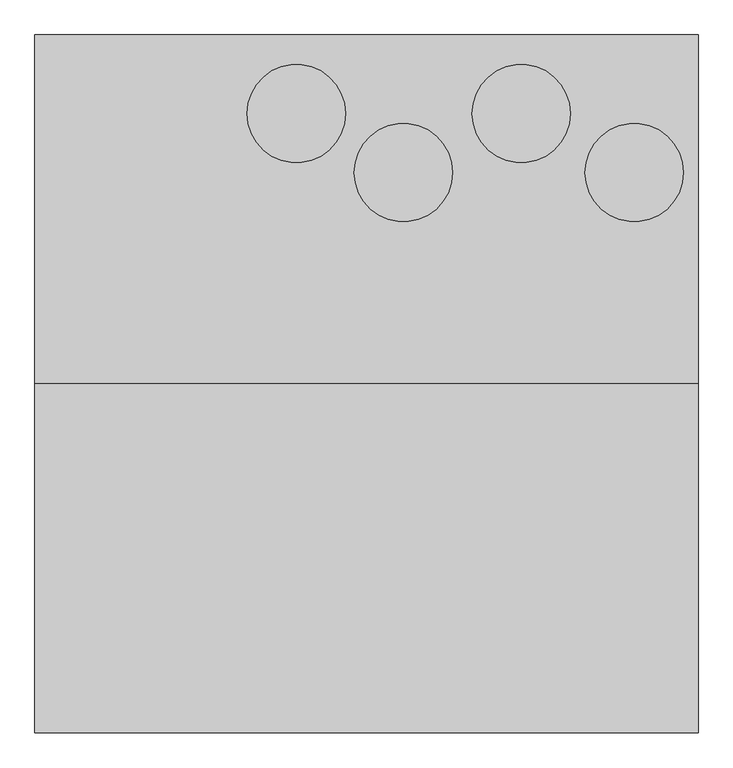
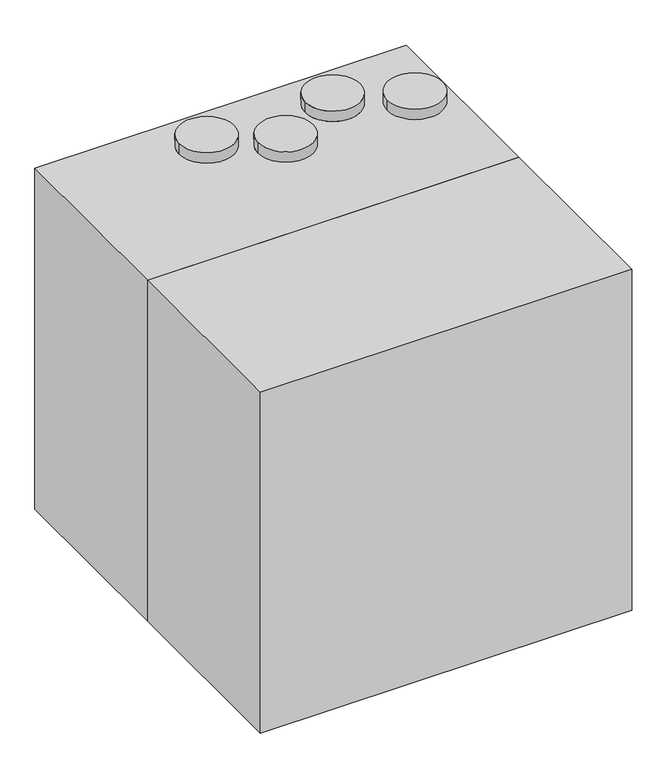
"""IFC4 building model written with IfcOpenShell, lengths in millimetres: proxy geometry, ADSK_КПВУ RIVIERA-EC VRE_круглая : Riviera-EC VRE 850."""

from ifc_helpers import new_model, si_unit, frame, origin, origin_with_axes, place, context, project, spatial, polyline, circle_curve, outline, extrude, source, transform, mapped, element, save
from ifc_brep_helpers import plane_surface, cylinder_surface, advanced_brep


def mechanical_equipment_e39d4b15(model_context):
    return source(origin(), model_context, "Body", "SolidModel", [
        extrude(outline(polyline([(941.0, -355.0), (941.0, -1065.0), (-409.0, -1065.0), (-409.0, -355.0), (941.0, -355.0)])), origin_with_axes(), (0.0, 0.0, 1.0), 1310.0),
        advanced_brep(
        [(941.0, -355.0, 0.0), (941.0, -355.0, 1310.0), (-409.0, -355.0, 1310.0), (-409.0, -355.0, 0.0), (-409.0, 355.0, 0.0), (-409.0, 355.0, 1310.0), (941.0, 355.0, 1310.0), (941.0, 355.0, 0.0), (23.0, 195.0, 1350.0), (223.0, 195.0, 1350.0), (241.0, 75.0, 1350.0), (441.0, 75.0, 1350.0), (481.0, 195.0, 1350.0), (681.0, 195.0, 1350.0), (711.0, 75.0, 1350.0), (911.0, 75.0, 1350.0), (23.0, 195.0, 1310.0), (223.0, 195.0, 1310.0), (241.0, 75.0, 1310.0), (441.0, 75.0, 1310.0), (481.0, 195.0, 1310.0), (681.0, 195.0, 1310.0), (711.0, 75.0, 1310.0), (911.0, 75.0, 1310.0)],
        [
            (0, 1),
            (1, 2),
            (2, 3),
            (3, 0),
            (4, 5),
            (5, 6),
            (6, 7),
            (7, 4),
            (7, 0),
            (3, 4),
            (8, 9, circle_curve(frame((123.0, 195.0, 1350.0), z_axis=(0.0, 0.0, 1.0), x_axis=(1.0, 0.0, 0.0)), 100.0)),
            (9, 8, circle_curve(frame((123.0, 195.0, 1350.0), z_axis=(0.0, 0.0, 1.0), x_axis=(1.0, 0.0, 0.0)), 100.0)),
            (10, 11, circle_curve(frame((341.0, 75.0, 1350.0), z_axis=(0.0, 0.0, 1.0), x_axis=(1.0, 0.0, 0.0)), 100.0)),
            (11, 10, circle_curve(frame((341.0, 75.0, 1350.0), z_axis=(0.0, 0.0, 1.0), x_axis=(1.0, 0.0, 0.0)), 100.0)),
            (12, 13, circle_curve(frame((581.0, 195.0, 1350.0), z_axis=(0.0, 0.0, 1.0), x_axis=(1.0, 0.0, 0.0)), 100.0)),
            (13, 12, circle_curve(frame((581.0, 195.0, 1350.0), z_axis=(0.0, 0.0, 1.0), x_axis=(1.0, 0.0, 0.0)), 100.0)),
            (14, 15, circle_curve(frame((811.0, 75.0, 1350.0), z_axis=(0.0, 0.0, 1.0), x_axis=(1.0, 0.0, 0.0)), 100.0)),
            (15, 14, circle_curve(frame((811.0, 75.0, 1350.0), z_axis=(0.0, 0.0, 1.0), x_axis=(1.0, 0.0, 0.0)), 100.0)),
            (8, 16),
            (16, 17, circle_curve(frame((123.0, 195.0, 1310.0), z_axis=(0.0, 0.0, 1.0), x_axis=(1.0, 0.0, 0.0)), 100.0)),
            (17, 9),
            (17, 16, circle_curve(frame((123.0, 195.0, 1310.0), z_axis=(0.0, 0.0, 1.0), x_axis=(1.0, 0.0, 0.0)), 100.0)),
            (10, 18),
            (18, 19, circle_curve(frame((341.0, 75.0, 1310.0), z_axis=(0.0, 0.0, 1.0), x_axis=(1.0, 0.0, 0.0)), 100.0)),
            (19, 11),
            (19, 18, circle_curve(frame((341.0, 75.0, 1310.0), z_axis=(0.0, 0.0, 1.0), x_axis=(1.0, 0.0, 0.0)), 100.0)),
            (12, 20),
            (20, 21, circle_curve(frame((581.0, 195.0, 1310.0), z_axis=(0.0, 0.0, 1.0), x_axis=(1.0, 0.0, 0.0)), 100.0)),
            (21, 13),
            (21, 20, circle_curve(frame((581.0, 195.0, 1310.0), z_axis=(0.0, 0.0, 1.0), x_axis=(1.0, 0.0, 0.0)), 100.0)),
            (14, 22),
            (22, 23, circle_curve(frame((811.0, 75.0, 1310.0), z_axis=(0.0, 0.0, 1.0), x_axis=(1.0, 0.0, 0.0)), 100.0)),
            (23, 15),
            (23, 22, circle_curve(frame((811.0, 75.0, 1310.0), z_axis=(0.0, 0.0, 1.0), x_axis=(1.0, 0.0, 0.0)), 100.0)),
            (6, 1),
            (2, 5),
        ],
        [
            plane_surface(frame((153.0, -355.0, 0.0), z_axis=(0.0, -1.0, 0.0), x_axis=(0.0, 0.0, 1.0))),
            plane_surface(frame((153.0, 355.0, 0.0), z_axis=(0.0, 1.0, 0.0), x_axis=(0.0, 0.0, -1.0))),
            plane_surface(frame((93.0, -355.0, 0.0), z_axis=(0.0, 0.0, -1.0), x_axis=(0.0, 1.0, 0.0))),
            plane_surface(frame((223.0, 195.0, 1350.0), z_axis=(0.0, 0.0, 1.0), x_axis=(0.0, 1.0, 0.0))),
            cylinder_surface(frame((123.0, 195.0, 1310.0), z_axis=(0.0, 0.0, 1.0), x_axis=(1.0, 0.0, 0.0)), 100.0),
            cylinder_surface(frame((341.0, 75.0, 0.0), z_axis=(0.0, 0.0, 1.0), x_axis=(1.0, 0.0, 0.0)), 100.0),
            cylinder_surface(frame((581.0, 195.0, 0.0), z_axis=(0.0, 0.0, 1.0), x_axis=(1.0, 0.0, 0.0)), 100.0),
            cylinder_surface(frame((811.0, 75.0, 0.0), z_axis=(0.0, 0.0, 1.0), x_axis=(1.0, 0.0, 0.0)), 100.0),
            plane_surface(frame((941.0, -355.0, 1310.0), z_axis=(1.0, 0.0, 0.0), x_axis=(0.0, 0.0, -1.0))),
            plane_surface(frame((-409.0, -355.0, 1310.0), z_axis=(-1.0, 0.0, 0.0), x_axis=(0.0, 0.0, 1.0))),
            plane_surface(frame((941.0, 355.0, 1310.0), z_axis=(0.0, 0.0, 1.0), x_axis=(-1.0, 0.0, 0.0))),
        ],
        [
            (0, [[1, 2, 3, 4]]),
            (1, [[5, 6, 7, 8]]),
            (2, [[-8, 9, -4, 10]]),
            (3, [[11, 12]]),
            (3, [[13, 14]]),
            (3, [[15, 16]]),
            (3, [[17, 18]]),
            (4, [[-11, 19, 20, 21]]),
            (4, [[-12, -21, 22, -19]]),
            (5, [[-13, 23, 24, 25]]),
            (5, [[-14, -25, 26, -23]]),
            (6, [[-15, 27, 28, 29]]),
            (6, [[-16, -29, 30, -27]]),
            (7, [[-17, 31, 32, 33]]),
            (7, [[-18, -33, 34, -31]]),
            (8, [[-1, -9, -7, 35]]),
            (9, [[36, -5, -10, -3]]),
            (10, [[-35, -6, -36, -2], [-20, -22], [-24, -26], [-28, -30], [-32, -34]]),
        ],
    ),
    ])


if __name__ == "__main__":
    model = new_model("IFC4")
    model_context = context("Model", 3, world=origin())
    ifc_project = project(units=[si_unit("LENGTHUNIT", "METRE", prefix="MILLI")], contexts=[model_context])
    site = spatial("IfcSite", under=ifc_project)
    building = spatial("IfcBuilding", under=site)
    placement = place(None, origin())
    mechanical_equipment_shape = mechanical_equipment_e39d4b15(model_context)
    element("IfcBuildingElementProxy", 1, Name="ADSK_КПВУ RIVIERA-EC VRE_круглая : Riviera-EC VRE 850", ObjectType="ADSK_КПВУ RIVIERA-EC VRE_круглая : Riviera-EC VRE 850", at=placement, inside=building, context=model_context, shape_type="MappedRepresentation", body=[
        mapped(mechanical_equipment_shape, transform((0.0, 0.0, 0.0), x_axis=(1.0, 0.0, 0.0), y_axis=(0.0, 1.0, 0.0), z_axis=(0.0, 0.0, 1.0))),
    ])
    save(model, "model.ifc")
